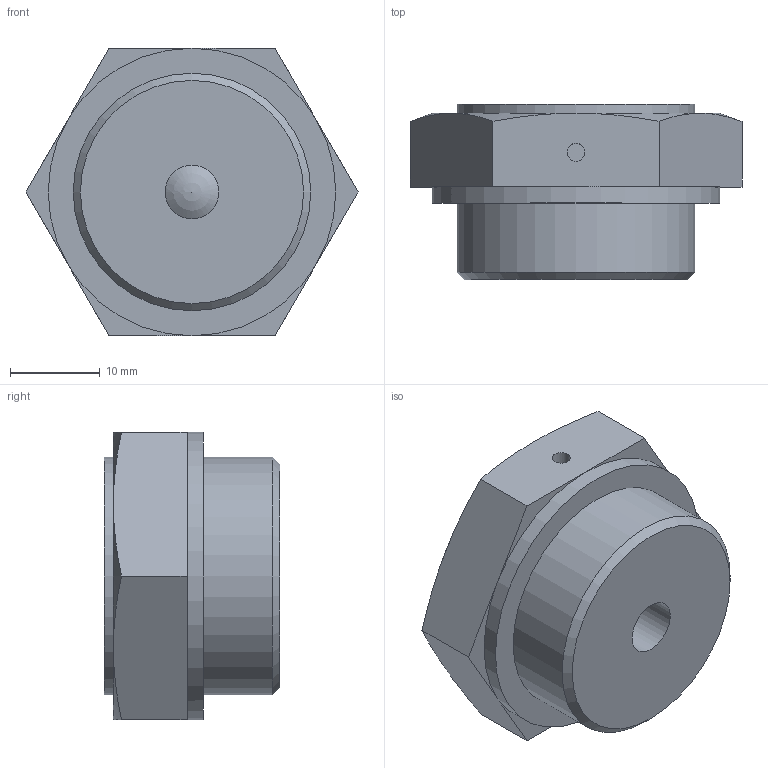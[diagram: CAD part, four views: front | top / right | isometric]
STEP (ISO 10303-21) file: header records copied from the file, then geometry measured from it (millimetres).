
FILE_DESCRIPTION( ( 'STEP AP203' ), '1' );
FILE_NAME( 'C:/Temp/Ganter_Step_05_03_2020/data/3_5/gn883/Breather valve GN 883-G3_4-160-A-MS.stp', '2020-03-12T13:42:47', ( 'License CC BY-ND 4.0' ), ( 'CADENAS' ), ' ', 'PARTsolutions', ' ' );
FILE_SCHEMA( ( 'CONFIG_CONTROL_DESIGN' ) );
Length unit declared in the file: millimetre
Products named in the file (1): _Breather valve GN 883-G3/4-160-A-MS
Bounding box: 36.95 x 19.5 x 32 mm (x, y, z)
Volume: 13720.2 mm3; surface area: 3775.3 mm2
Topology: 1 solids, 1 shells, 30 faces, 61 edges, 36 vertices
Faces by surface type: plane 17, cone 7, cylinder 5, sphere 1
Full cylindrical faces by diameter (mm): 2 x1, 6 x1, 26.44 x1, 26.441 x1, 32 x1
Entity records: 806 total; most frequent: CARTESIAN_POINT 178, DIRECTION 124, ORIENTED_EDGE 104, AXIS2_PLACEMENT_3D 53, EDGE_CURVE 52, EDGE_LOOP 40, FACE_OUTER_BOUND 35, VERTEX_POINT 35
